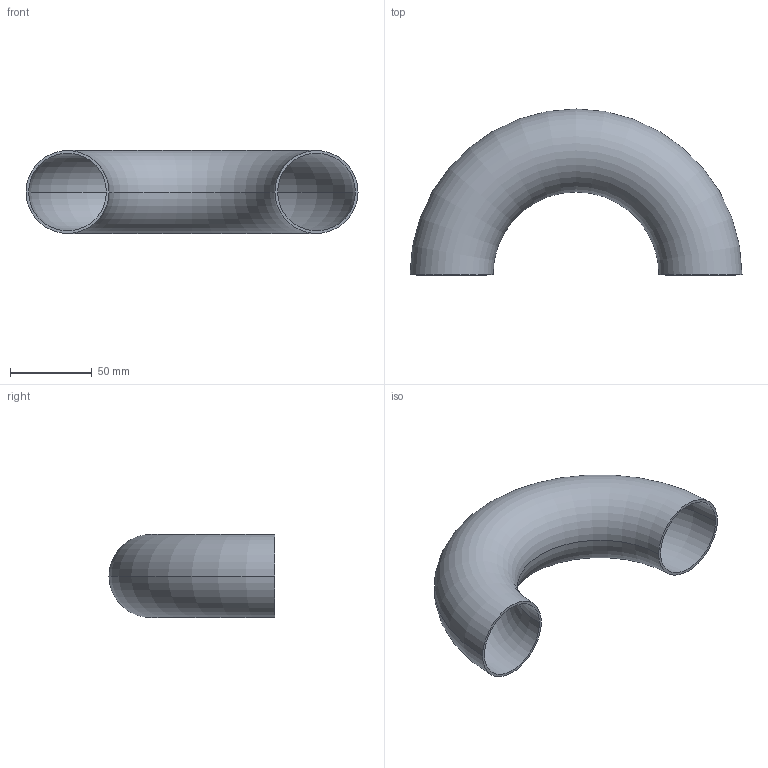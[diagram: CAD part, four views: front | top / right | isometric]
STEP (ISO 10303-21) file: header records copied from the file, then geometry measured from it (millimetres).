
FILE_DESCRIPTION (( 'STEP AP203' ), '1' );
FILE_NAME ('E2WU2.0.STEP', '2018-04-30T18:24:51', ( 'vneprd' ), ( 'Microsoft' ), 'SwSTEP 2.0', 'SolidWorks 2014', '' );
FILE_SCHEMA (( 'CONFIG_CONTROL_DESIGN' ));
Length unit declared in the file: inch
Products named in the file (1): E2WU2.0
Bounding box: 203.2 x 101.6 x 50.8 mm (x, y, z)
Volume: 61026.2 mm3; surface area: 74436.2 mm2
Topology: 1 solids, 1 shells, 6 faces, 12 edges, 8 vertices
Faces by surface type: torus 4, plane 2
Entity records: 251 total; most frequent: DIRECTION 38, CARTESIAN_POINT 27, ORIENTED_EDGE 24, AXIS2_PLACEMENT_3D 19, CIRCLE 12, EDGE_CURVE 12, PERSON_AND_ORGANIZATION 8, VERTEX_POINT 8
